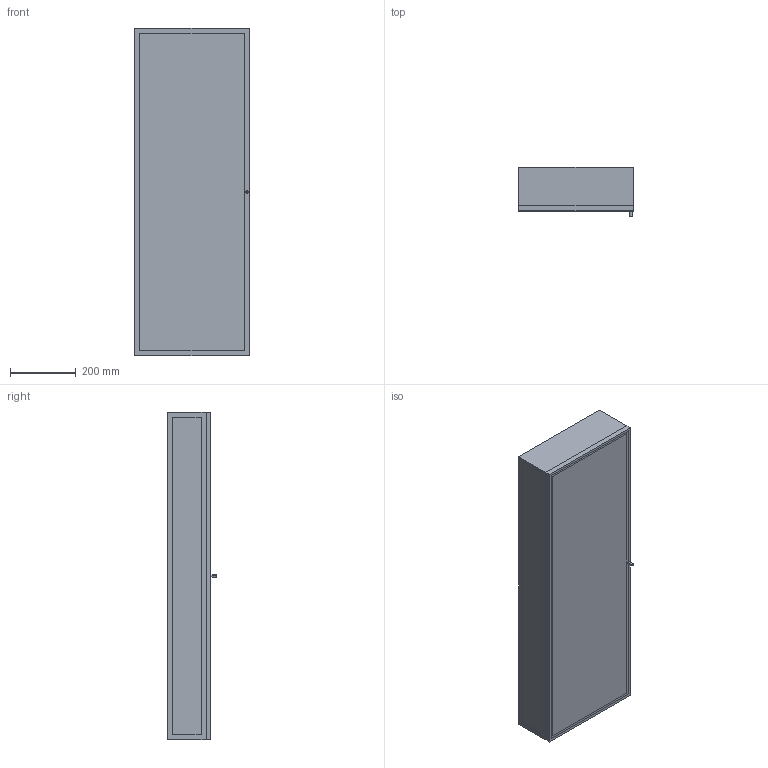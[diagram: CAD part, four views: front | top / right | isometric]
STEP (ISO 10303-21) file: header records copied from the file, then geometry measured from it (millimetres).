
FILE_DESCRIPTION(/* description */ (''),/* implementation_level */ '2;1');
FILE_NAME(/* name */ 'Haze Wall Cabinet_35x100',/* time_stamp */ '2025-07-24T14:24:54+02:00',/* author */ (''),/* organization */ (''),/* preprocessor_version */ 'ST-DEVELOPER v19.2',/* originating_system */ 'Rhino 8.19',/* authorisation */ '');
FILE_SCHEMA (('CONFIG_CONTROL_DESIGN'));
Length unit declared in the file: millimetre
Products named in the file (1): Document
Bounding box: 350 x 150 x 1000 mm (x, y, z)
Volume: 5555473.3 mm3; surface area: 2807551.8 mm2
Topology: 26 solids, 26 shells, 159 faces, 314 edges, 209 vertices
Faces by surface type: plane 125, cylinder 34
Entity records: 3881 total; most frequent: CARTESIAN_POINT 1071, ORIENTED_EDGE 620, EDGE_CURVE 310, DIRECTION 301, AXIS2_PLACEMENT_3D 230, B_SPLINE_CURVE_WITH_KNOTS 212, VERTEX_POINT 204, EDGE_LOOP 170
